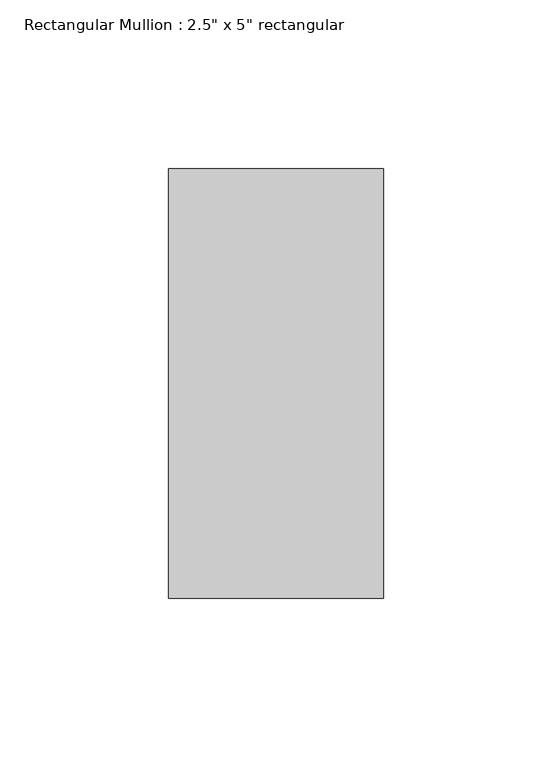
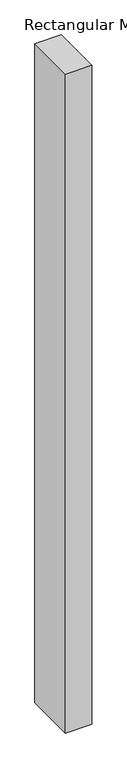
"""IFC4 building model written with IfcOpenShell, lengths in millimetres: member geometry."""

from ifc_helpers import new_model, si_unit, frame, origin, place, context, project, spatial, polyline, outline, extrude, source, transform, mapped, element, save


def member_cebf76e9(model_context):
    return source(origin(), model_context, "Body", "SweptSolid", [
        extrude(outline(polyline([(31.75, 63.5), (31.75, -63.5), (-31.75, -63.5), (-31.75, 63.5), (31.75, 63.5)])), frame((0.0, 0.0, -1670.05), z_axis=(0.0, 0.0, 1.0), x_axis=(1.0, 0.0, 0.0)), (0.0, 0.0, 1.0), 1670.05),
    ])


if __name__ == "__main__":
    model = new_model("IFC4")
    model_context = context("Model", 3, world=origin())
    ifc_project = project(units=[si_unit("LENGTHUNIT", "METRE", prefix="MILLI")], contexts=[model_context])
    site = spatial("IfcSite", under=ifc_project)
    building = spatial("IfcBuilding", under=site)
    placement = place(None, origin())
    member_shape = member_cebf76e9(model_context)
    element("IfcMember", 1, ObjectType="Rectangular Mullion : 2.5\" x 5\" rectangular", at=placement, inside=building, context=model_context, shape_type="MappedRepresentation", body=[
        mapped(member_shape, transform((0.0, 0.0, 0.0), x_axis=(1.0, 0.0, 0.0), y_axis=(0.0, 1.0, 0.0), z_axis=(0.0, 0.0, 1.0))),
    ])
    save(model, "model.ifc")
